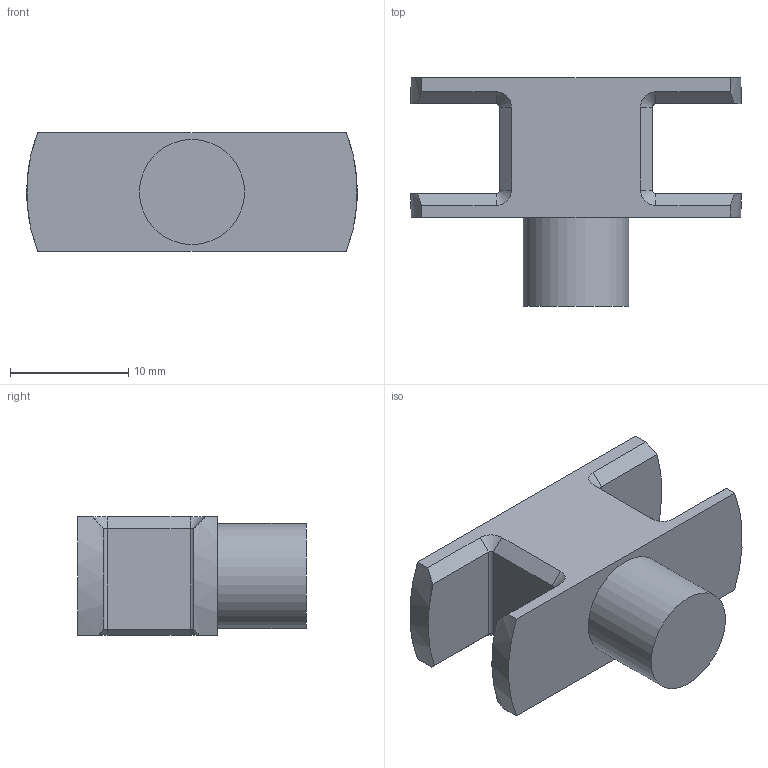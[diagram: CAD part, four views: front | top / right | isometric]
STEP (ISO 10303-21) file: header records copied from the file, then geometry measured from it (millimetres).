
FILE_DESCRIPTION(/* description */ (''),/* implementation_level */ '2;1');
FILE_NAME(/* name */ '7_stp.stp',/* time_stamp */ '2026-05-16T20:08:21+08:00',/* author */ (''),/* organization */ (''),/* preprocessor_version */ 'ST-DEVELOPER v20',/* originating_system */ 'SIEMENS PLM Software NX2312.8900',/* authorisation */ '');
FILE_SCHEMA (('AUTOMOTIVE_DESIGN { 1 0 10303 214 3 1 1 1 }'));
Length unit declared in the file: millimetre
Products named in the file (1): 7_stp
Bounding box: 27.9 x 19.3 x 10 mm (x, y, z)
Volume: 2562.2 mm3; surface area: 1653.8 mm2
Topology: 1 solids, 1 shells, 40 faces, 95 edges, 58 vertices
Faces by surface type: plane 23, cylinder 9, cone 8
Full cylindrical faces by diameter (mm): 8.87 x1
Entity records: 1172 total; most frequent: DIRECTION 210, CARTESIAN_POINT 193, ORIENTED_EDGE 188, EDGE_CURVE 94, AXIS2_PLACEMENT_3D 75, LINE 60, VECTOR 60, VERTEX_POINT 58
